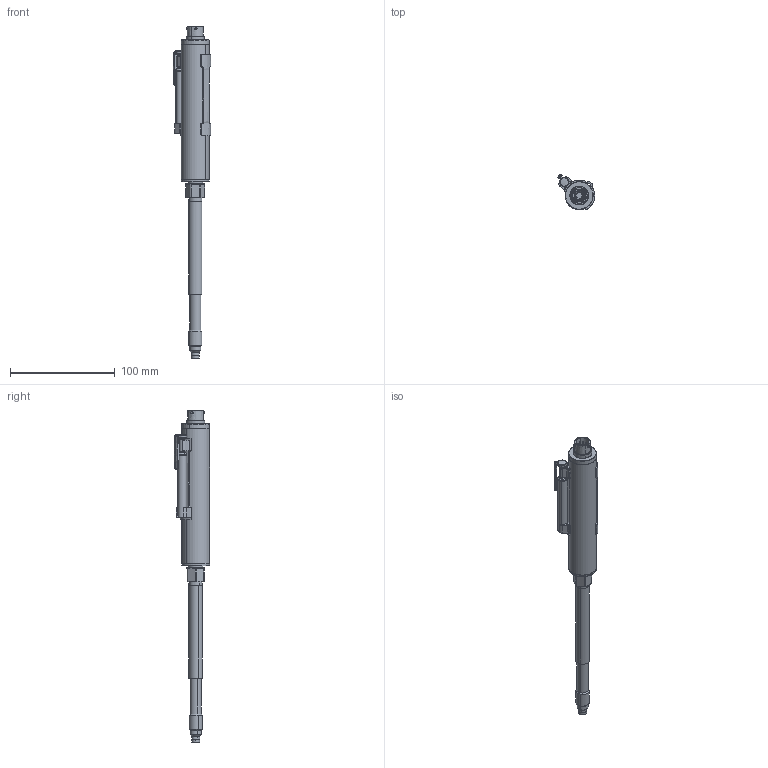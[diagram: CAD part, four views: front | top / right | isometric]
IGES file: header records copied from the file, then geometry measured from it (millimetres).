
Start section: SolidWorks IGES file using analytic representation for surfaces
Global section: file name: C:\Users\daniele.peli\Desktop\Simona\KE0\KE0-6-x-xxxx-1-4-0-x-P.IGS; native system: SolidWorks 2021; preprocessor: SolidWorks 2021; author: daniele.peli; date: 210204.140931; units: millimetre
Bounding box: 35.7 x 34.1 x 316.67 mm (x, y, z)
Surface area: 27029.7 mm2 (no closed solid volume)
Topology: 0 solids, 0 shells, 273 faces, 3463 edges, 3461 vertices
Faces by surface type: revolution 155, bspline 118
